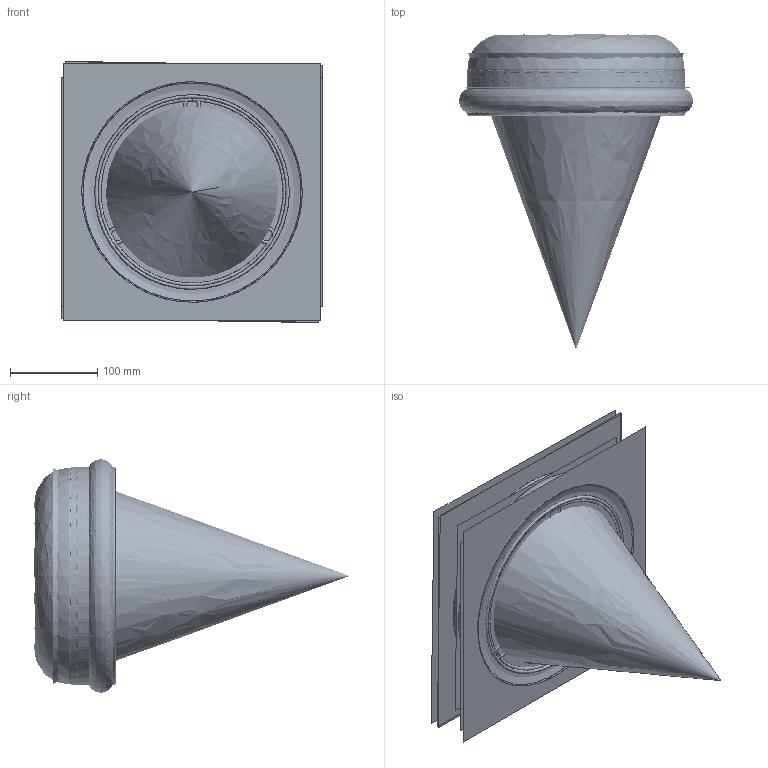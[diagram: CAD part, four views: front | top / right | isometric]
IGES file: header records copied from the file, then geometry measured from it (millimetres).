
Global section: file name: C:\Users\utente\Desktop\3d sito\BARBADOS\barbados L.igs; native system: Rhinoceros ( Mar  9 2011 ); preprocessor: Trout Lake IGES 012 Mar  9 2011; date: 170517.132633; units: millimetre
Bounding box: 299.92 x 361.44 x 299.63 mm (x, y, z)
Surface area: 2559839.1 mm2 (no closed solid volume)
Topology: 0 solids, 0 shells, 132 faces, 367 edges, 273 vertices
Faces by surface type: bspline 132
